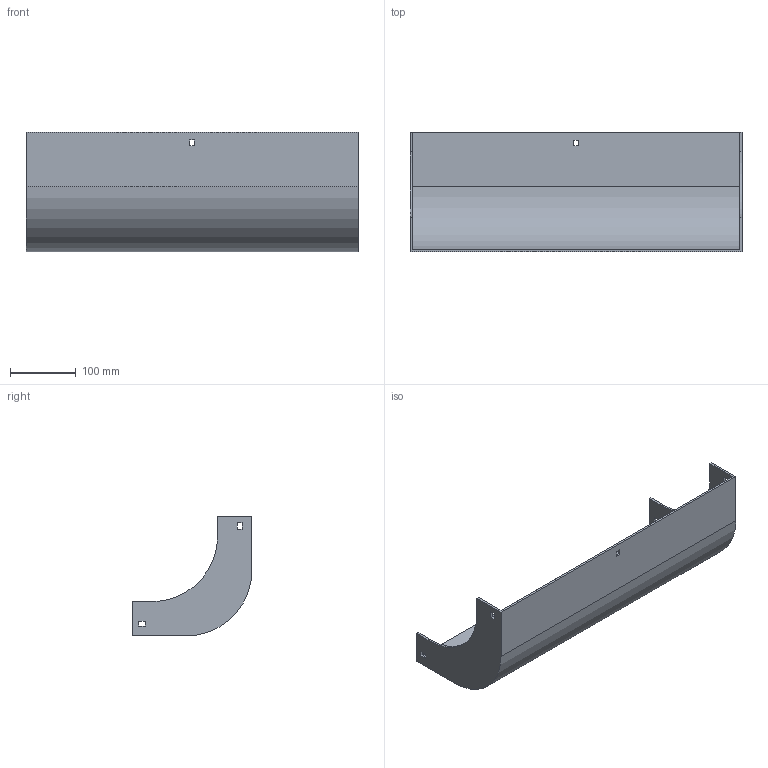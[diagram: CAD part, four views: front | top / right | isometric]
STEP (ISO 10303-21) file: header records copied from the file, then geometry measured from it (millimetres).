
FILE_DESCRIPTION (( 'STEP AP214' ), '1' );
FILE_NAME ('30F1B500.step', '2025-02-21T13:01:51', ( '' ), ( '' ), 'SwSTEP 2.0', 'SolidWorks 2023', '' );
FILE_SCHEMA (( 'AUTOMOTIVE_DESIGN' ));
Length unit declared in the file: millimetre
Products named in the file (1): 30F1B500
Bounding box: 504 x 182 x 182 mm (x, y, z)
Volume: 665914.8 mm3; surface area: 386961.6 mm2
Topology: 1 solids, 1 shells, 42 faces, 120 edges, 80 vertices
Faces by surface type: plane 38, cylinder 4
Entity records: 1399 total; most frequent: CARTESIAN_POINT 243, ORIENTED_EDGE 240, DIRECTION 214, EDGE_CURVE 120, VECTOR 112, LINE 112, VERTEX_POINT 80, EDGE_LOOP 54
